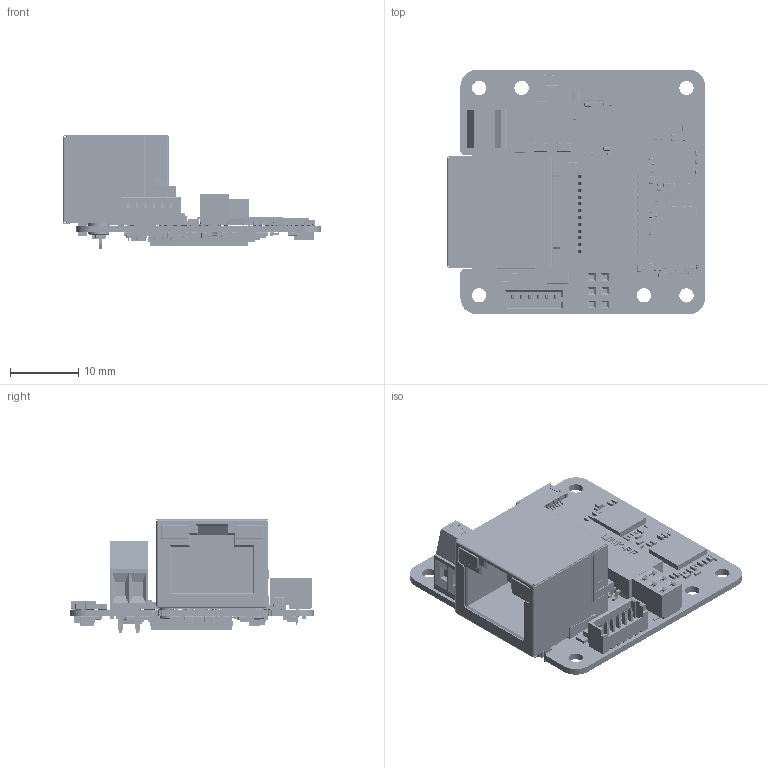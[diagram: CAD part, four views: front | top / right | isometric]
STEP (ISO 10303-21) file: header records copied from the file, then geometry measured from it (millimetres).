
FILE_DESCRIPTION(/* description */ ('ZB Platinen-Kamera'),/* implementation_level */ '2;1');
FILE_NAME(/* name */ 'KSM_306-23-16-00-00_ZB PlatinenKam_GigE-4SB_IMX568.stp',/* time_stamp */ '2025-06-06T00:54:02+02:00',/* author */ ('khw'),/* organization */ ('TIS/ Germany'),/* preprocessor_version */ 'ST-DEVELOPER v20',/* originating_system */ 'Autodesk Inventor 2025',/* authorisation */ '520025 mm^3');
FILE_SCHEMA (('AUTOMOTIVE_DESIGN { 1 0 10303 214 3 1 1 }'));
Products named in the file (2): KSM_306-23-16-00-00_ZB PlatinenKam_GigE-4SB_IMX5688; Sensorboard_4G-JD0_0100_GigE4-SB_IMX568_03-06-25
Assembly tree (1 placements, depth 2):
  KSM_306-23-16-00-00_ZB PlatinenKam_GigE-4SB_IMX5688
    Sensorboard_4G-JD0_0100_GigE4-SB_IMX568_03-06-25
Bounding box: 37.99 x 36.01 x 16.65 mm (x, y, z)
Volume: 4957.3 mm3; surface area: 7602.1 mm2
Topology: 8 solids, 8 shells, 13313 faces, 31282 edges, 16648 vertices
Faces by surface type: cylinder 5525, plane 5040, sphere 1360, torus 1352, bspline 34, cone 2
Full cylindrical faces by diameter (mm): 0.3 x1, 0.5 x6, 0.739 x1, 1.05 x2, 1.2 x2, 2.032 x2, 2.1 x6
Entity records: 376243 total; most frequent: DIRECTION 67580, CARTESIAN_POINT 61052, ORIENTED_EDGE 59844, EDGE_CURVE 29922, AXIS2_PLACEMENT_3D 24432, LINE 18716, VECTOR 18716, VERTEX_POINT 16648
